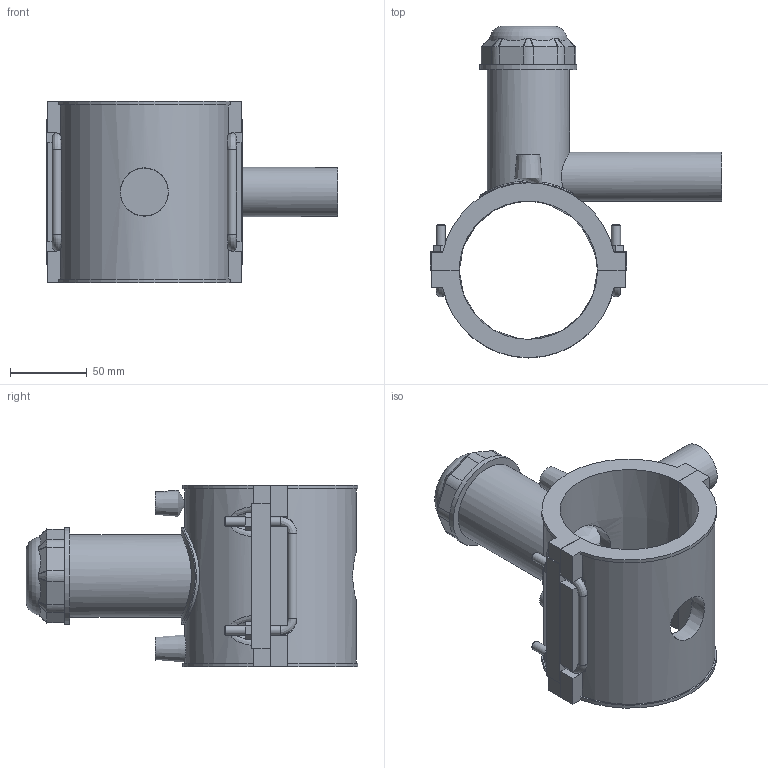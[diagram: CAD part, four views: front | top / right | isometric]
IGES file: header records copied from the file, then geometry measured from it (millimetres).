
Global section: file name: 496304090032.ipt; native system: Autodesk Inventor 2015; preprocessor: unknown; author: KIM; date: 20190124.130745; units: millimetre
Bounding box: 190 x 215.92 x 118 mm (x, y, z)
Volume: 587465.4 mm3; surface area: 152557.7 mm2
Topology: 2 solids, 4 shells, 224 faces, 566 edges, 363 vertices
Faces by surface type: plane 125, cylinder 36, revolution 28, bspline 21, cone 14
Full cylindrical faces by diameter (mm): 4 x2, 6 x8, 32 x1, 53.55 x1, 63 x1
